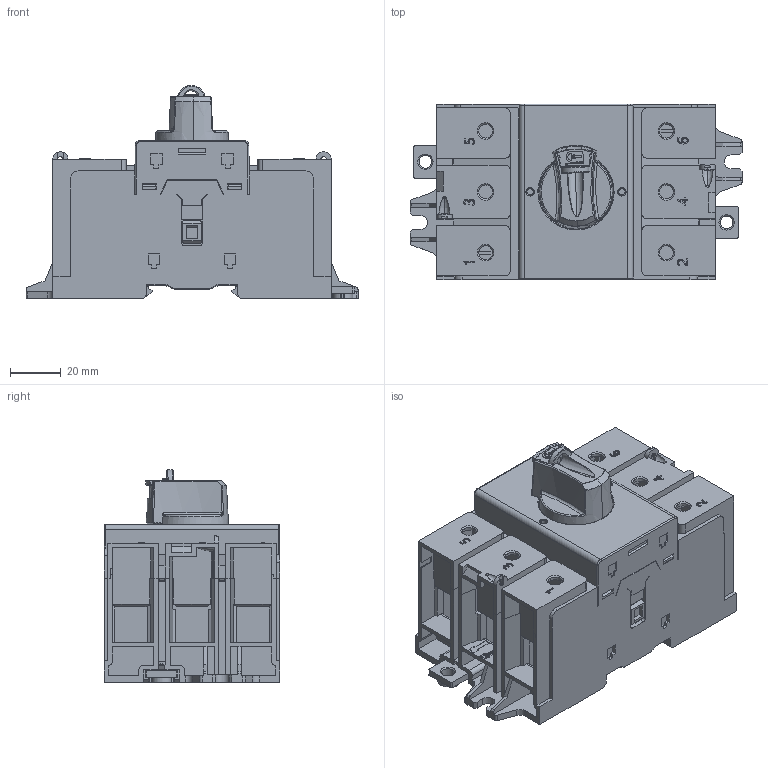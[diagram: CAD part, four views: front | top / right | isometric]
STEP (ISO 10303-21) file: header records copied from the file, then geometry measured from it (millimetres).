
FILE_DESCRIPTION (( 'STEP AP203' ), '1' );
FILE_NAME ('NF2-125DB.STEP', '2024-03-01T05:57:04', ( 'wzjh' ), ( '' ), 'SwSTEP 2.0', 'SolidWorks 2023', '' );
FILE_SCHEMA (( 'CONFIG_CONTROL_DESIGN' ));
Length unit declared in the file: millimetre
Products named in the file (1): NF2-125DB
Bounding box: 130.6 x 69.1 x 83.78 mm (x, y, z)
Volume: 275869.3 mm3; surface area: 104495.4 mm2
Topology: 1 solids, 22 shells, 2449 faces, 7003 edges, 4593 vertices
Faces by surface type: plane 1847, cylinder 376, bspline 138, cone 66, torus 18, sphere 4
Entity records: 98454 total; most frequent: CARTESIAN_POINT 34951, ORIENTED_EDGE 13996, DIRECTION 12061, EDGE_CURVE 6998, LINE 5583, VECTOR 5583, VERTEX_POINT 4594, AXIS2_PLACEMENT_3D 3239
